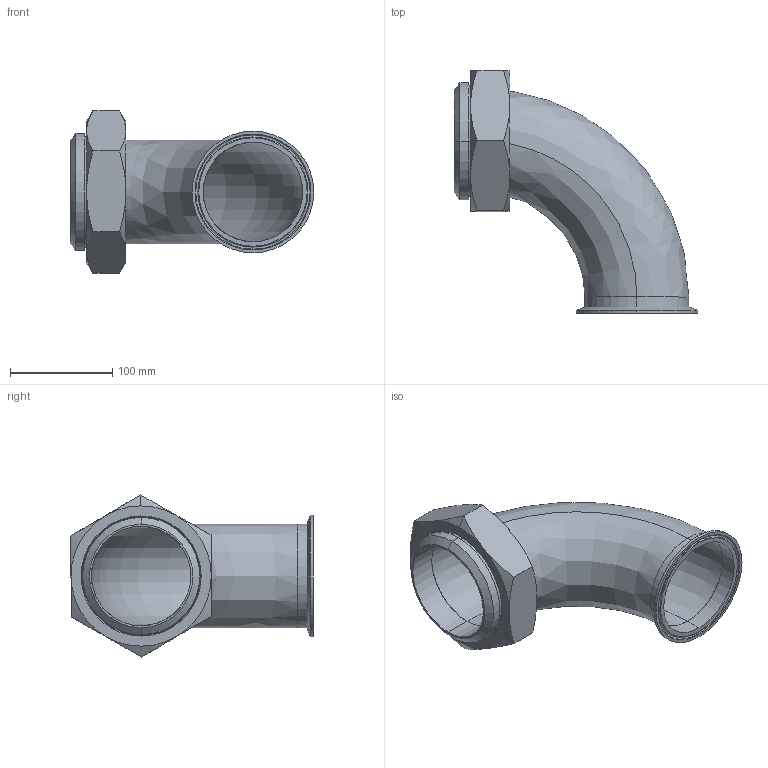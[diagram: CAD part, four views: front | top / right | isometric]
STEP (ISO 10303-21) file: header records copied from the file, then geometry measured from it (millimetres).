
FILE_DESCRIPTION (( 'STEP AP203' ), '1' );
FILE_NAME ('EG2FPR4.0.STEP', '2018-05-07T13:10:38', ( 'vneprd' ), ( 'Microsoft' ), 'SwSTEP 2.0', 'SolidWorks 2014', '' );
FILE_SCHEMA (( 'CONFIG_CONTROL_DESIGN' ));
Length unit declared in the file: inch
Products named in the file (5): 13H4.0; EG2FPR4.0; EG2CS4.0; 2WCL4.0; 14PR4.0
Assembly tree (4 placements, depth 2):
  EG2FPR4.0
    2WCL4.0
    14PR4.0
    EG2CS4.0
    13H4.0
Bounding box: 238.05 x 237.14 x 158.37 mm (x, y, z)
Volume: 440139.1 mm3; surface area: 240883.6 mm2
Topology: 4 solids, 4 shells, 92 faces, 208 edges, 128 vertices
Faces by surface type: cylinder 35, cone 24, plane 20, bspline 7, torus 6
Entity records: 16142 total; most frequent: CARTESIAN_POINT 13678, ORIENTED_EDGE 416, DIRECTION 399, EDGE_CURVE 208, AXIS2_PLACEMENT_3D 169, VERTEX_POINT 128, EDGE_LOOP 104, ADVANCED_FACE 92
